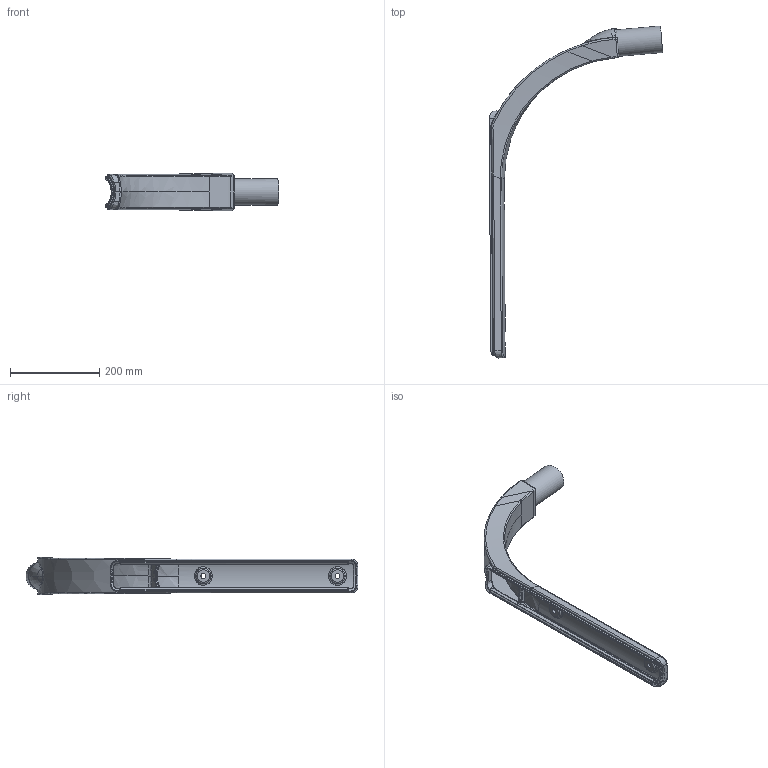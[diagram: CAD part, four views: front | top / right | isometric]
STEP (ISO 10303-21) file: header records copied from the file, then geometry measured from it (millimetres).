
FILE_DESCRIPTION((''),'2;1');
FILE_NAME('3350875','2012-01-16T',('IMAU'),('n|p|k industrial design bv'),'PRO/ENGINEER BY PARAMETRIC TECHNOLOGY CORPORATION, 2007390','PRO/ENGINEER BY PARAMETRIC TECHNOLOGY CORPORATION, 2007390','');
FILE_SCHEMA(('CONFIG_CONTROL_DESIGN'));
Length unit declared in the file: millimetre
Products named in the file (1): 3350875
Bounding box: 388.22 x 742.78 x 84.09 mm (x, y, z)
Volume: 980912.6 mm3; surface area: 325749.9 mm2
Topology: 1 solids, 1 shells, 421 faces, 1015 edges, 595 vertices
Faces by surface type: bspline 244, cylinder 60, plane 54, extrusion 29, cone 14, torus 12, sphere 8
Entity records: 21616 total; most frequent: CARTESIAN_POINT 13601, ORIENTED_EDGE 2026, DIRECTION 1116, EDGE_CURVE 1013, VERTEX_POINT 595, B_SPLINE_CURVE_WITH_KNOTS 542, AXIS2_PLACEMENT_3D 439, EDGE_LOOP 432
